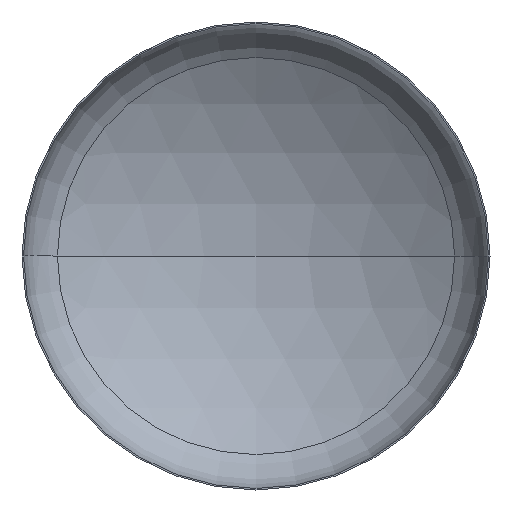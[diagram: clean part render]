
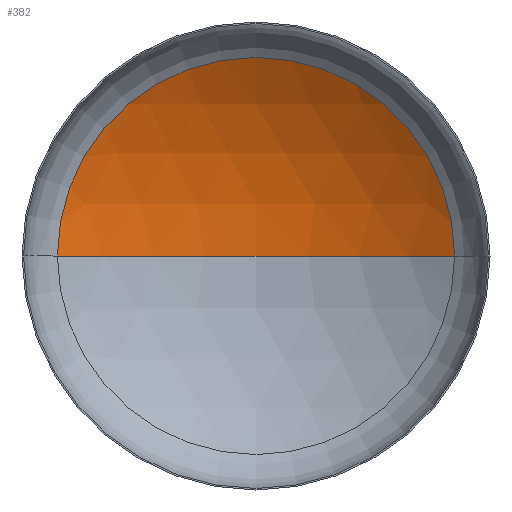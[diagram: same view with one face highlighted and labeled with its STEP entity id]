
A CAD part, front view. The second image highlights one B-rep face of the part: STEP entity #382.
In plain terms, the highlighted spherical face has radius 2720 mm.
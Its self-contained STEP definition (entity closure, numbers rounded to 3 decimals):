
#32 = EDGE_LOOP ( 'NONE', ( #152, #118, #65 ) ) ;
#34 = VERTEX_POINT ( 'NONE', #291 ) ;
#36 = VERTEX_POINT ( 'NONE', #366 ) ;
#42 = AXIS2_PLACEMENT_3D ( 'NONE', #256, #255, #254 ) ;
#45 = AXIS2_PLACEMENT_3D ( 'NONE', #198, #212, #214 ) ;
#47 = AXIS2_PLACEMENT_3D ( 'NONE', #394, #353, #177 ) ;
#65 = ORIENTED_EDGE ( 'NONE', *, *, #142, .T. ) ;
#81 = CIRCLE ( 'NONE', #47, 1442.405 ) ;
#90 = CARTESIAN_POINT ( 'NONE',  ( 0., -1820.948, 0. ) ) ;
#97 = VERTEX_POINT ( 'NONE', #249 ) ;
#118 = ORIENTED_EDGE ( 'NONE', *, *, #144, .T. ) ;
#142 = EDGE_CURVE ( 'NONE', #36, #34, #81, .T. ) ;
#144 = EDGE_CURVE ( 'NONE', #97, #36, #379, .T. ) ;
#152 = ORIENTED_EDGE ( 'NONE', *, *, #160, .F. ) ;
#159 = DIRECTION ( 'NONE',  ( 0., 0., -1. ) ) ;
#160 = EDGE_CURVE ( 'NONE', #97, #34, #193, .T. ) ;
#177 = DIRECTION ( 'NONE',  ( 1., 0., 0. ) ) ;
#182 = DIRECTION ( 'NONE',  ( -1., 0., 0. ) ) ;
#184 = AXIS2_PLACEMENT_3D ( 'NONE', #90, #159, #182 ) ;
#193 = CIRCLE ( 'NONE', #42, 2720. ) ;
#198 = CARTESIAN_POINT ( 'NONE',  ( 0., -1820.948, 0. ) ) ;
#212 = DIRECTION ( 'NONE',  ( 0., 0., -1. ) ) ;
#214 = DIRECTION ( 'NONE',  ( -1., 0., 0. ) ) ;
#249 = CARTESIAN_POINT ( 'NONE',  ( 0., 899.052, 0. ) ) ;
#254 = DIRECTION ( 'NONE',  ( 1., 0., 0. ) ) ;
#255 = DIRECTION ( 'NONE',  ( 0., 0., 1. ) ) ;
#256 = CARTESIAN_POINT ( 'NONE',  ( 0., -1820.948, 0. ) ) ;
#291 = CARTESIAN_POINT ( 'NONE',  ( -1442.405, 485.102, 0. ) ) ;
#328 = SPHERICAL_SURFACE ( 'NONE', #184, 2720. ) ;
#338 = FACE_OUTER_BOUND ( 'NONE', #32, .T. ) ;
#353 = DIRECTION ( 'NONE',  ( 0., -1., 0. ) ) ;
#366 = CARTESIAN_POINT ( 'NONE',  ( 1442.405, 485.102, 0. ) ) ;
#379 = CIRCLE ( 'NONE', #45, 2720. ) ;
#382 = ADVANCED_FACE ( 'NONE', ( #338 ), #328, .F. ) ;
#394 = CARTESIAN_POINT ( 'NONE',  ( 0., 485.102, 0. ) ) ;
